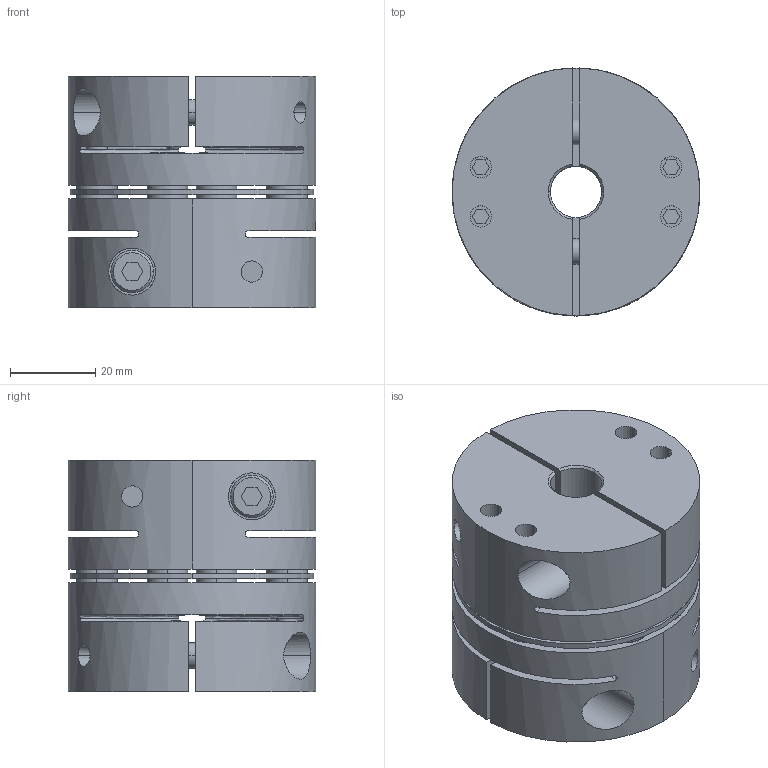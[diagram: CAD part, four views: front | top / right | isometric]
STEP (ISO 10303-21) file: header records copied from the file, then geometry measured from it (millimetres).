
FILE_DESCRIPTION((''),'2;1');
FILE_NAME('TAS-58C-12×12.stp','2022-11-14T21:48:11',(''),(''),'AutoCAD STEP 2000i','AutoCAD 2000i',', , ');
FILE_SCHEMA(('CONFIG_CONTROL_DESIGN'));
Length unit declared in the file: millimetre
Products named in the file (5): TAS-58C-12×12; 忣兜1; TA58C-12-2; CAP-M6×20; TA58C-12
Assembly tree (5 placements, depth 3):
  TAS-58C-12×12
    忣兜1
    TA58C-12-2
      CAP-M6×20
    TA58C-12
      CAP-M6×20
Bounding box: 58 x 58 x 54.25 mm (x, y, z)
Volume: 114645.4 mm3; surface area: 42762 mm2
Topology: 1 solids, 1 shells, 360 faces, 897 edges, 611 vertices
Faces by surface type: plane 160, cylinder 148, cone 36, bspline 16
Entity records: 13087 total; most frequent: CARTESIAN_POINT 4173, DIRECTION 1908, ORIENTED_EDGE 1720, EDGE_CURVE 860, AXIS2_PLACEMENT_3D 729, VERTEX_POINT 564, EDGE_LOOP 464, VECTOR 450
